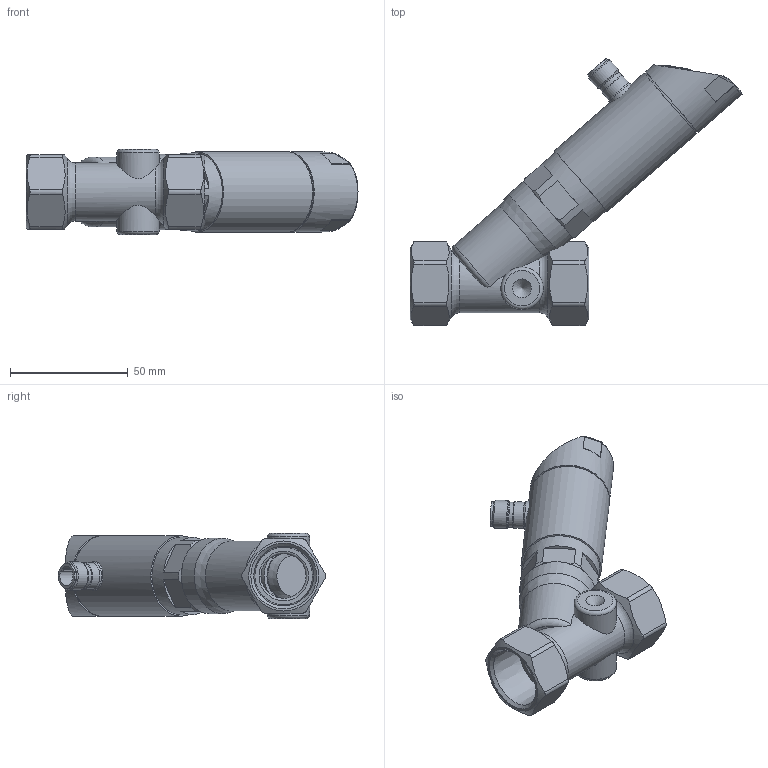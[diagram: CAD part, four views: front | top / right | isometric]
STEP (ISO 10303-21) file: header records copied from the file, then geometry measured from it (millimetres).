
FILE_DESCRIPTION( ( 'STEP AP203' ), ' ' );
FILE_NAME( 'p:/temp/worker_830/5776_4960/app_51_02017051809525900462974192d056f_000000_00_00_000000/format_3/SBN232.stp', '2017-05-18T07:53:02', ( '' ), ( '' ), ' ', 'PARTsolutions', ' ' );
FILE_SCHEMA( ( 'CONFIG_CONTROL_DESIGN' ) );
Length unit declared in the file: millimetre
Products named in the file (1): _SBN232
Bounding box: 141.07 x 113.69 x 36.2 mm (x, y, z)
Volume: 114863.2 mm3; surface area: 31482.4 mm2
Topology: 1 solids, 1 shells, 191 faces, 496 edges, 326 vertices
Faces by surface type: plane 95, cylinder 60, cone 27, torus 9
Full cylindrical faces by diameter (mm): 4.45 x3, 8.2 x1, 10.55 x1, 10.8 x1, 11.3 x1, 12 x2, 12.77 x1, 14 x1, 18 x2, 18.9 x1, 20.5 x1, 22.1 x1, 24.65 x1, 32 x1, 32.87 x1, 33.1 x1, 34.1 x1, 34.2 x1
Entity records: 6515 total; most frequent: CARTESIAN_POINT 2202, ORIENTED_EDGE 850, DIRECTION 848, EDGE_CURVE 425, AXIS2_PLACEMENT_3D 343, VERTEX_POINT 304, EDGE_LOOP 260, FACE_OUTER_BOUND 219
